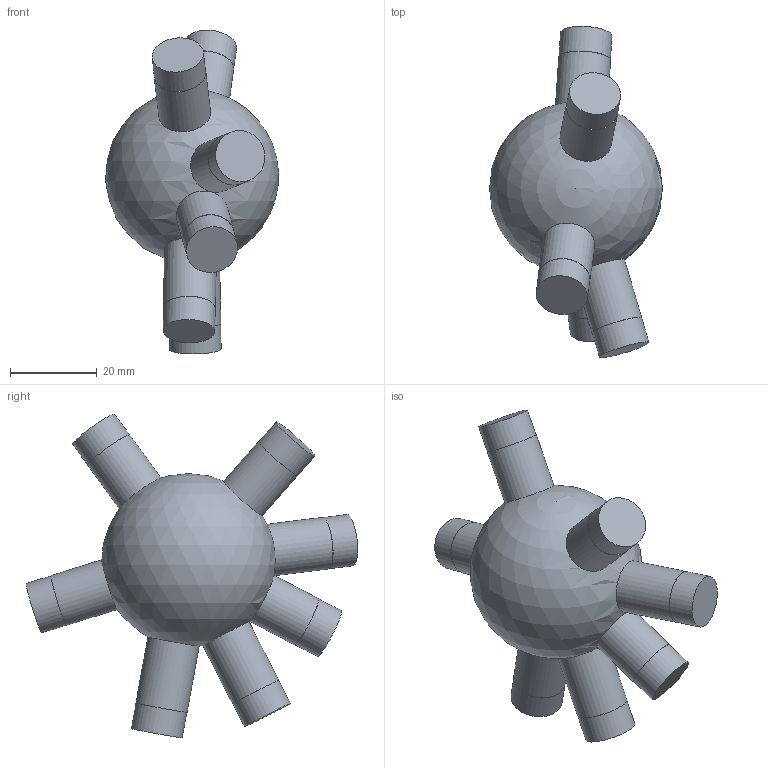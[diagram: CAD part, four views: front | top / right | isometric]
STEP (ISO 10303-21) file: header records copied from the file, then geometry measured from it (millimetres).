
FILE_DESCRIPTION(('Open CASCADE Model'),'2;1');
FILE_NAME('Open CASCADE Shape Model','2026-10-21T12:47:57',('Author'),( 'Open CASCADE'),'Open CASCADE STEP processor 7.9','Open CASCADE 7.9' ,'Unknown');
FILE_SCHEMA(('AUTOMOTIVE_DESIGN { 1 0 10303 214 1 1 1 1 }'));
Length unit declared in the file: millimetre
Products named in the file (1): Open CASCADE STEP translator 7.9 153
Bounding box: 39.95 x 76.54 x 74.77 mm (x, y, z)
Volume: 48424.2 mm3; surface area: 10114.8 mm2
Topology: 1 solids, 1 shells, 29 faces, 45 edges, 30 vertices
Faces by surface type: cylinder 14, plane 14, sphere 1
Full cylindrical faces by diameter (mm): 11.9 x7, 12 x7
Entity records: 1735 total; most frequent: CARTESIAN_POINT 697, DIRECTION 214, ORIENTED_EDGE 88, PCURVE 88, DEFINITIONAL_REPRESENTATION 88, LINE 73, VECTOR 73, AXIS2_PLACEMENT_3D 60
